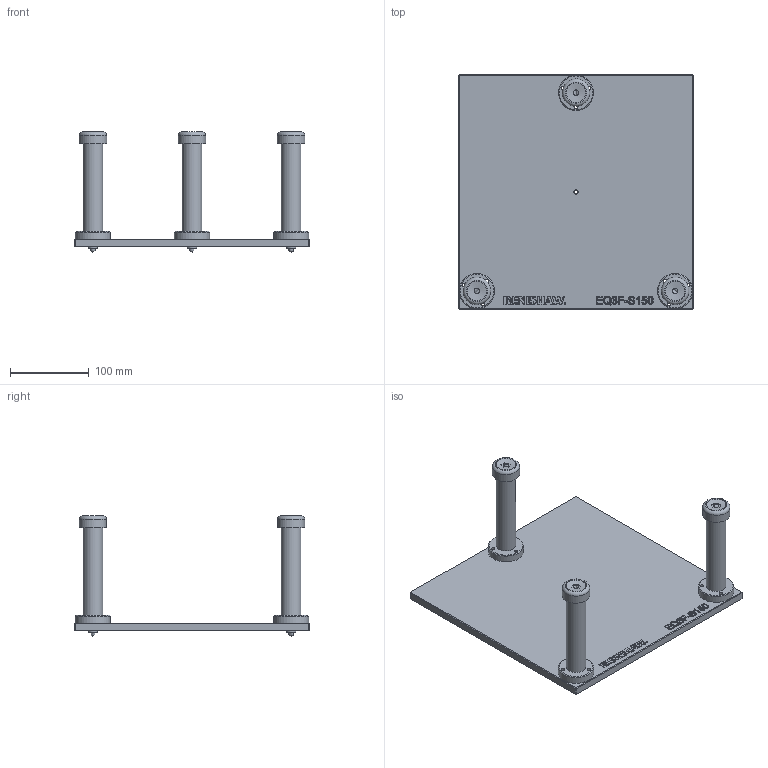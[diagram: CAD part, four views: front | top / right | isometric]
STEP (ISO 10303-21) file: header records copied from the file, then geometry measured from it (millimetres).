
FILE_DESCRIPTION(/* description */ (''),/* implementation_level */ '2;1');
FILE_NAME(/* name */ 'A-5504-0207-01_B.stp',/* time_stamp */ '2017-12-13T10:50:17+00:00',/* author */ (''),/* organization */ (''),/* preprocessor_version */ 'ST-DEVELOPER v16',/* originating_system */ 'SIEMENS PLM Software NX 10.0',/* authorisation */ '');
FILE_SCHEMA (('AP203_CONFIGURATION_CONTROLLED_3D_DESIGN_OF_MECHANICAL_PARTS_AND_ASSEMBLIES_MIM_LF { 1 0 10303 403 2 1 2}'));
Length unit declared in the file: millimetre
Products named in the file (1): cj131E8072CBwaqs
Bounding box: 300 x 300 x 152.9 mm (x, y, z)
Volume: 1144074.5 mm3; surface area: 254014.3 mm2
Topology: 19 solids, 19 shells, 625 faces, 1452 edges, 922 vertices
Faces by surface type: plane 370, cylinder 114, bspline 54, extrusion 45, torus 21, cone 18, sphere 3
Full cylindrical faces by diameter (mm): 1.87 x1, 2.37 x1, 4.3 x9, 5.2 x10, 5.5 x3, 6 x6, 6.4 x3, 7 x3, 9 x9, 12 x3, 12.5 x3, 15.9 x3, 16.05 x3, 25 x6, 25.5 x3, 35 x3, 45 x3
Entity records: 20151 total; most frequent: CARTESIAN_POINT 7039, ORIENTED_EDGE 2616, DIRECTION 2321, EDGE_CURVE 1308, VERTEX_POINT 898, EDGE_LOOP 846, AXIS2_PLACEMENT_3D 791, VECTOR 739
